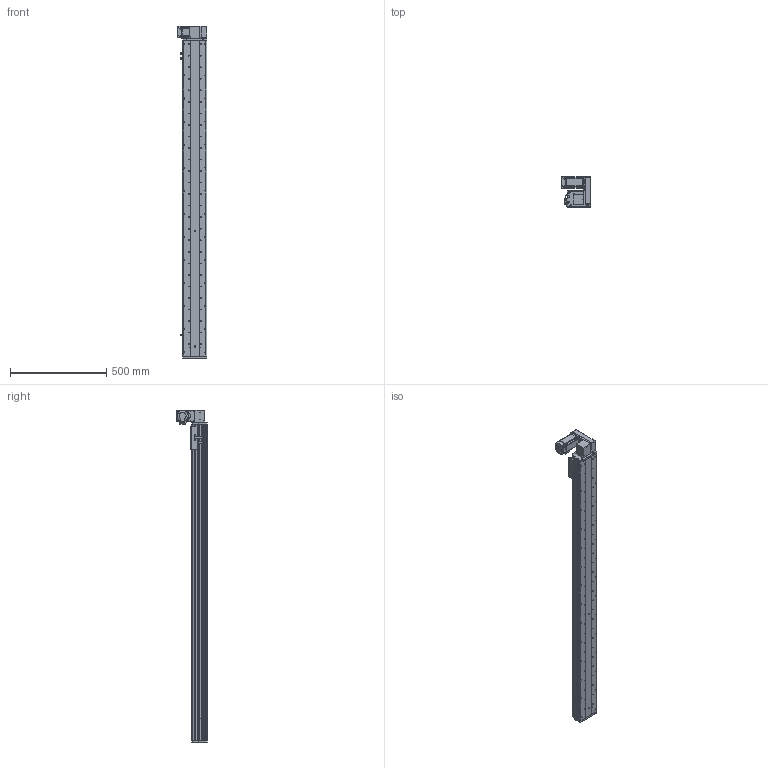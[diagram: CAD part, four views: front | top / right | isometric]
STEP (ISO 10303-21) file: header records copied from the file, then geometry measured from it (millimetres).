
FILE_DESCRIPTION (( 'STEP AP214' ), '1' );
FILE_NAME ('KSD125B-S1450-MLU-CM.STEP', '2017-10-21T03:39:19', ( '微软用户' ), ( '微软中国' ), 'SwSTEP 2.0', 'SolidWorks 2014', '' );
FILE_SCHEMA (( 'AUTOMOTIVE_DESIGN' ));
Length unit declared in the file: millimetre
Products named in the file (17): 悵誘欶奻狟殏; 100宽马达安装板连板上下折丝杆同步带; HTPA30S3M150_A_H6_a佪裝蚚; HTPA30S3M150_A_H6_a萇儂蚚; 100宽马达安装板同步带左; KSD125模组1450行程同步带-防尘盖; 125模组1450行程同步带-底板; MHMD042G1CA_2_03; KSD125模组同步带-防撞垫2; 覜茼え68遵圉猾敕; U倰嫖萇假蚾璃; U倰嫖萇EEㄜSX672; KSD125模组同步带-防撞垫1; 前端板-125宽模组同步带; 125模组同步带-尾端板1; KSD125模组同步带-滑动座1; KSD125B-S1450-MLU-CM
Assembly tree (20 placements, depth 2):
  KSD125B-S1450-MLU-CM
    KSD125模组同步带-滑动座1
    125模组同步带-尾端板1
    前端板-125宽模组同步带
    KSD125模组同步带-防撞垫1
    U倰嫖萇EEㄜSX672  x3
    U倰嫖萇假蚾璃  x3
    覜茼え68遵圉猾敕
    KSD125模组同步带-防撞垫2
    MHMD042G1CA_2_03
    125模组1450行程同步带-底板
    KSD125模组1450行程同步带-防尘盖
    100宽马达安装板同步带左
    HTPA30S3M150_A_H6_a萇儂蚚
    HTPA30S3M150_A_H6_a佪裝蚚
    100宽马达安装板连板上下折丝杆同步带
    悵誘欶奻狟殏
Bounding box: 155 x 157.5 x 1727 mm (x, y, z)
Volume: 5126203.8 mm3; surface area: 1699469.9 mm2
Topology: 19 solids, 22 shells, 2383 faces, 6913 edges, 4570 vertices
Faces by surface type: cylinder 1520, plane 736, cone 105, bspline 22
Entity records: 85343 total; most frequent: CARTESIAN_POINT 16791, DIRECTION 13254, ORIENTED_EDGE 12346, EDGE_CURVE 6251, AXIS2_PLACEMENT_3D 5145, VERTEX_POINT 4162, CIRCLE 2980, LINE 2964
